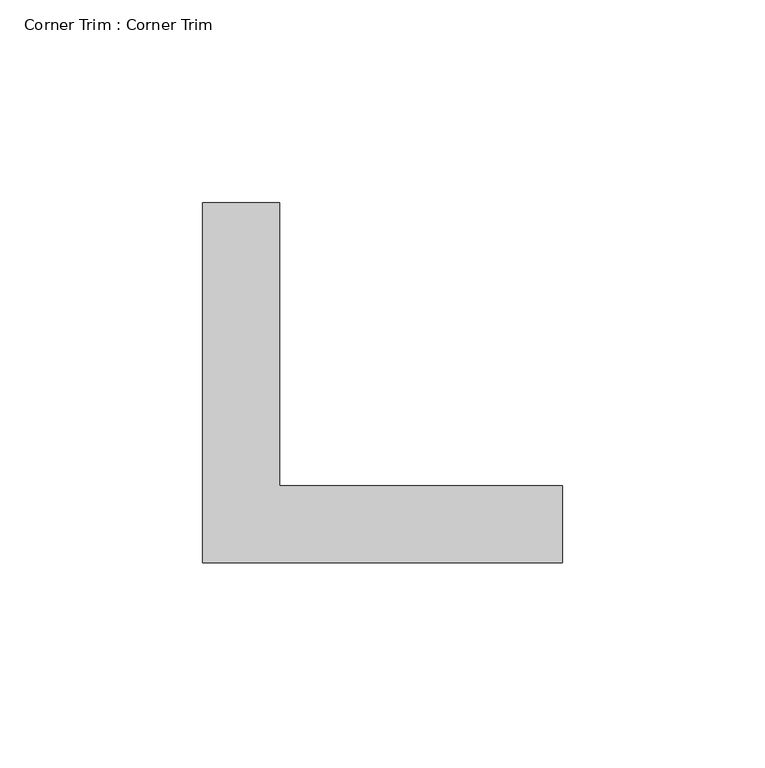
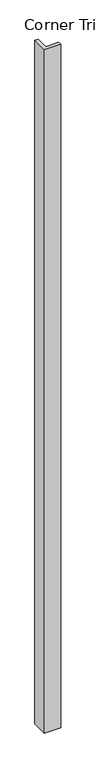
"""IFC4 building model written with IfcOpenShell, lengths in millimetres: proxy geometry, Corner Trim : Corner Trim."""

import ifcopenshell
import ifcopenshell.guid

model = None  # the IFC model being written
_history = None  # IfcOwnerHistory: only IFC2X3 demands one
_inside = {}  # id of a spatial element -> (the spatial element, [elements in it])
_under = {}  # id of a project, library or spatial element -> (it, [spatial elements below it])
_declared = {}  # id of a project -> (the project, [libraries it declares])
_typed = {}  # id of a type object -> (the type object, [elements of that type])
_made_of = {}  # id of a material, layer set ... -> (it, [elements and type objects made of it])


def new_model(schema):
    """Start an empty IFC model of exactly this schema.

    Asked for "IFC4X3", IfcOpenShell would pick the latest addendum, in which some entities
    have other attributes; the version numbers below select the first issue.
    IFC2X3 requires an IfcOwnerHistory on every rooted entity: one is made here for all.
    """
    global model, _history
    if schema == "IFC4X3":
        model = ifcopenshell.file(schema_version=(4, 3, 0, 0))
    else:
        model = ifcopenshell.file(schema=schema)
    _inside.clear()
    _under.clear()
    _declared.clear()
    _typed.clear()
    _made_of.clear()
    _history = None
    if model.schema == "IFC2X3":
        org = make("IfcOrganization", Name="unknown")
        user = make(
            "IfcPersonAndOrganization",
            ThePerson=make("IfcPerson", FamilyName="unknown"),
            TheOrganization=org,
        )
        app = make(
            "IfcApplication",
            ApplicationDeveloper=org,
            Version="unknown",
            ApplicationFullName="unknown",
            ApplicationIdentifier="unknown",
        )
        _history = make(
            "IfcOwnerHistory",
            OwningUser=user,
            OwningApplication=app,
            ChangeAction="ADDED",
            CreationDate=0,
        )
    return model


def make(cls, **values):
    """One entity of the class cls with the attributes given. An attribute that is None is left unset."""
    return model.create_entity(
        cls, **{name: value for name, value in values.items() if value is not None}
    )


def rooted(cls, **values):
    """An entity with a GlobalId (a new one), such as an element, a storey or a relation."""
    return make(cls, GlobalId=ifcopenshell.guid.new(), OwnerHistory=_history, **values)


def si_unit(unit_type, name, prefix=None):
    """IfcSIUnit, for example si_unit("LENGTHUNIT", "METRE", prefix="MILLI")."""
    return make("IfcSIUnit", UnitType=unit_type, Prefix=prefix, Name=name)


def assignment(units):
    """IfcUnitAssignment: the units of a project."""
    return None if units is None else make("IfcUnitAssignment", Units=units)


def point(xyz):
    """IfcCartesianPoint."""
    return None if xyz is None else make("IfcCartesianPoint", Coordinates=xyz)


def direction(xyz):
    """IfcDirection."""
    return None if xyz is None else make("IfcDirection", DirectionRatios=xyz)


def frame(location, z_axis=None, x_axis=None):
    """IfcAxis2Placement3D, a coordinate frame: its origin and axes. An axis left out is left unset."""
    return make(
        "IfcAxis2Placement3D",
        Location=point(location),
        Axis=direction(z_axis),
        RefDirection=direction(x_axis),
    )


def origin():
    """The frame at (0, 0, 0) with its axes left unset."""
    return frame((0.0, 0.0, 0.0))


def origin_with_axes():
    """The frame at (0, 0, 0) with the z axis (0, 0, 1) and the x axis (1, 0, 0) written out."""
    return frame((0.0, 0.0, 0.0), z_axis=(0.0, 0.0, 1.0), x_axis=(1.0, 0.0, 0.0))


def place(relative_to, where):
    """IfcLocalPlacement: puts the frame where relative to a parent placement (None: the world)."""
    return make(
        "IfcLocalPlacement", PlacementRelTo=relative_to, RelativePlacement=where
    )


def context(
    kind, dimensions, precision=None, world=None, true_north=None, identifier=None
):
    """IfcGeometricRepresentationContext, for example the 3D "Model" context."""
    return make(
        "IfcGeometricRepresentationContext",
        ContextIdentifier=identifier,
        ContextType=kind,
        CoordinateSpaceDimension=dimensions,
        Precision=precision,
        WorldCoordinateSystem=world,
        TrueNorth=true_north,
    )


def project(units=None, contexts=None):
    """IfcProject with its units and contexts."""
    return rooted(
        "IfcProject",
        Name="project",
        RepresentationContexts=contexts,
        UnitsInContext=assignment(units),
    )


def spatial(cls, under=None, at=None, **own):
    """A site, building, storey or space (cls), placed at a placement, below another one or the project."""
    s = rooted(cls, ObjectPlacement=at, **own)
    if under is not None:
        _under.setdefault(under.id(), (under, []))[1].append(s)
    return s


def polyline(points):
    """IfcPolyline through the points."""
    return make("IfcPolyline", Points=[point(p) for p in points])


def outline(outer, holes=None, kind="AREA"):
    """IfcArbitraryClosedProfileDef: a profile drawn as a closed curve; with holes, ...WithVoids."""
    if holes is None:
        return make("IfcArbitraryClosedProfileDef", ProfileType=kind, OuterCurve=outer)
    return make(
        "IfcArbitraryProfileDefWithVoids",
        ProfileType=kind,
        OuterCurve=outer,
        InnerCurves=holes,
    )


def extrude(swept, where, along, depth):
    """IfcExtrudedAreaSolid: the profile swept, set in the frame where, extruded along a direction by depth."""
    return make(
        "IfcExtrudedAreaSolid",
        SweptArea=swept,
        Position=where,
        ExtrudedDirection=direction(along),
        Depth=depth,
    )


def shape(context_of_items, identifier, shape_type, items):
    """IfcShapeRepresentation: the items that make up one representation, for example the "Body"."""
    return make(
        "IfcShapeRepresentation",
        ContextOfItems=context_of_items,
        RepresentationIdentifier=identifier,
        RepresentationType=shape_type,
        Items=items,
    )


def source(mapping_origin, context_of_items, identifier, shape_type, items):
    """IfcRepresentationMap: a shape defined once, which mapped items show again and again."""
    return make(
        "IfcRepresentationMap",
        MappingOrigin=mapping_origin,
        MappedRepresentation=shape(context_of_items, identifier, shape_type, items),
    )


def transform(
    local_origin,
    x_axis=None,
    y_axis=None,
    z_axis=None,
    scale=None,
    scale2=None,
    scale3=None,
    uniform=True,
):
    """IfcCartesianTransformationOperator3D, or its non-uniform kind. x_axis, y_axis, z_axis: its Axis1, 2, 3."""
    if uniform:
        return make(
            "IfcCartesianTransformationOperator3D",
            Axis1=direction(x_axis),
            Axis2=direction(y_axis),
            LocalOrigin=point(local_origin),
            Scale=scale,
            Axis3=direction(z_axis),
        )
    return make(
        "IfcCartesianTransformationOperator3DnonUniform",
        Axis1=direction(x_axis),
        Axis2=direction(y_axis),
        LocalOrigin=point(local_origin),
        Scale=scale,
        Axis3=direction(z_axis),
        Scale2=scale2,
        Scale3=scale3,
    )


def mapped(mapping_source, mapping_target):
    """IfcMappedItem: shows the shape of a source again, moved by a transform."""
    return make(
        "IfcMappedItem", MappingSource=mapping_source, MappingTarget=mapping_target
    )


def made_of(thing, what):
    """Note that an element or type object is made of a material, layer set ...; save() writes the relation."""
    if what is not None:
        _made_of.setdefault(what.id(), (what, []))[1].append(thing)
    return thing


def element(
    cls,
    number,
    at=None,
    inside=None,
    cuts=None,
    type_object=None,
    material=None,
    context=None,
    identifier="Body",
    shape_type=None,
    held_by="IfcProductDefinitionShape",
    body=None,
    shapes=None,
    **own,
):
    """One element of the class cls, such as IfcWall. Its Tag is "e" and its number.

    at: its placement. inside: the storey or other place that contains it. cuts: it is an
    opening in that element (IfcRelVoidsElement). A single representation is given by context,
    identifier, shape_type and body (its items); several are given by shapes. held_by: the class
    of the entity that holds the representations. save() writes the other relations.
    """
    e = rooted(cls, Tag="e%d" % number, ObjectPlacement=at, **own)
    if body is not None:
        shapes = [shape(context, identifier, shape_type, body)]
    if shapes is not None:
        e.Representation = make(held_by, Representations=shapes)
    if inside is not None:
        _inside.setdefault(inside.id(), (inside, []))[1].append(e)
    if cuts is not None:
        rooted(
            "IfcRelVoidsElement", RelatingBuildingElement=cuts, RelatedOpeningElement=e
        )
    if type_object is not None:
        _typed.setdefault(type_object.id(), (type_object, []))[1].append(e)
    return made_of(e, material)


def aggregate(whole, parts):
    """IfcRelAggregates: a whole, such as a stair, and the parts it consists of."""
    return rooted("IfcRelAggregates", RelatingObject=whole, RelatedObjects=parts)


def save(model, path):
    """Write the relations noted so far, then the file.

    IfcRelAggregates (storeys below a building ...), IfcRelContainedInSpatialStructure (elements
    in a storey), IfcRelDefinesByType, IfcRelAssociatesMaterial and IfcRelDeclares: one each for
    every whole, place, type object, material and project.
    """
    for whole, parts in _under.values():
        aggregate(whole, parts)
    for where, things in _inside.values():
        rooted(
            "IfcRelContainedInSpatialStructure",
            RelatedElements=things,
            RelatingStructure=where,
        )
    for kind, things in _typed.values():
        rooted("IfcRelDefinesByType", RelatedObjects=things, RelatingType=kind)
    for what, things in _made_of.values():
        rooted("IfcRelAssociatesMaterial", RelatedObjects=things, RelatingMaterial=what)
    for by, libraries in _declared.values():
        rooted("IfcRelDeclares", RelatingContext=by, RelatedDefinitions=libraries)
    model.write(path)


def corner_trim_corner_trim_e06842d9(model_context):
    return source(origin(), model_context, "Body", "SweptSolid", [
        extrude(outline(polyline([(0.0, 0.0), (0.0, 88.9), (19.05, 88.9), (19.05, 19.05), (88.9, 19.05), (88.9, 0.0), (0.0, 0.0)])), origin_with_axes(), (0.0, 0.0, 1.0), 3906.5007914),
    ])


if __name__ == "__main__":
    model = new_model("IFC4")
    model_context = context("Model", 3, world=origin())
    ifc_project = project(units=[si_unit("LENGTHUNIT", "METRE", prefix="MILLI")], contexts=[model_context])
    site = spatial("IfcSite", under=ifc_project)
    building = spatial("IfcBuilding", under=site)
    placement = place(None, origin())
    corner_trim_corner_trim_shape = corner_trim_corner_trim_e06842d9(model_context)
    element("IfcBuildingElementProxy", 1, Name="Corner Trim : Corner Trim", ObjectType="Corner Trim : Corner Trim", at=placement, inside=building, context=model_context, shape_type="MappedRepresentation", body=[
        mapped(corner_trim_corner_trim_shape, transform((0.0, 0.0, 0.0), x_axis=(1.0, 0.0, 0.0), y_axis=(0.0, 1.0, 0.0), z_axis=(0.0, 0.0, 1.0))),
    ])
    save(model, "model.ifc")
